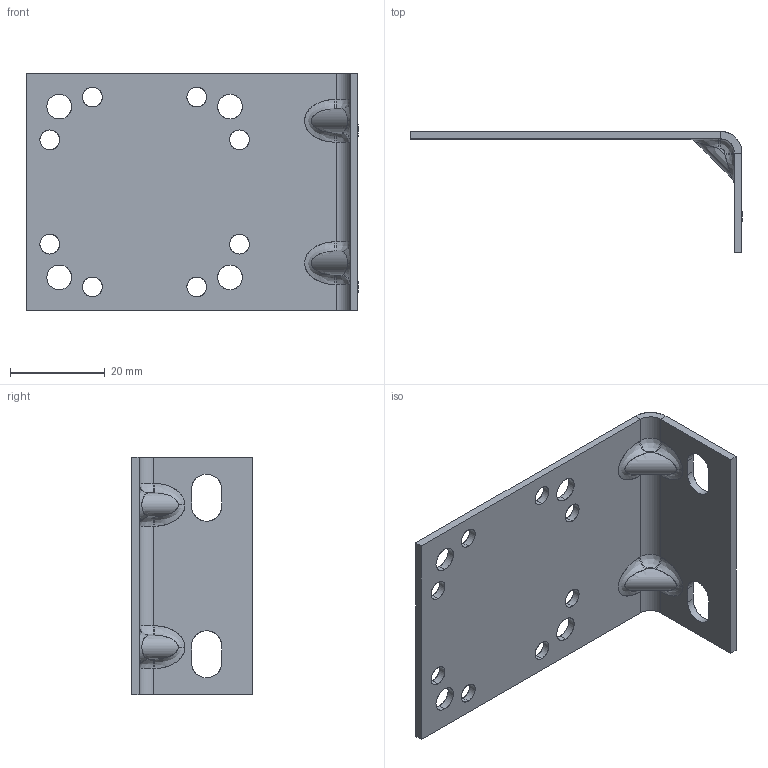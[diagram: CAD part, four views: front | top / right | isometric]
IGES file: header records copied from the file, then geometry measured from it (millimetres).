
Start section: SolidWorks IGES file using analytic representation for surfaces
Global section: file name: C:\Salvar\Planos Compartidos\Regulador de Pres. Prop\Soporte-2.IGS; native system: SolidWorks 2021; preprocessor: SolidWorks 2021; author: osval; date: 210212.115320; units: millimetre
Bounding box: 70 x 25.5 x 50 mm (x, y, z)
Surface area: 9550.6 mm2 (no closed solid volume)
Topology: 0 solids, 0 shells, 98 faces, 1636 edges, 1636 vertices
Faces by surface type: revolution 54, bspline 44
